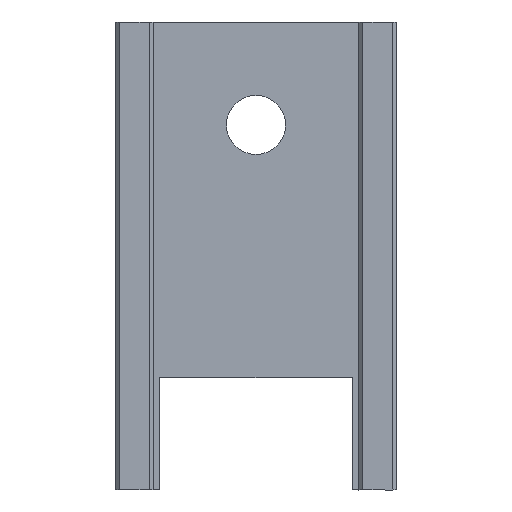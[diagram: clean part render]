
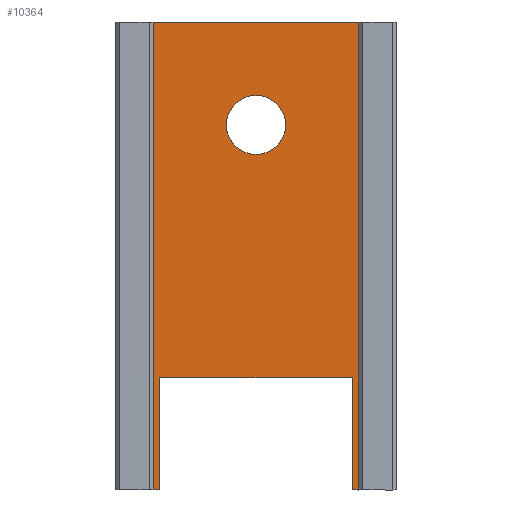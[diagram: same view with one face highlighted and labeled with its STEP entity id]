
A CAD part, front view. The second image highlights one B-rep face of the part: STEP entity #10364.
In plain terms, the highlighted planar face has unit normal (0, -1, 0).
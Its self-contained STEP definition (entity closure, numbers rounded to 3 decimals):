
#79 = CARTESIAN_POINT ( 'NONE',  ( 15., 17.85, 0. ) ) ;
#627 = CARTESIAN_POINT ( 'NONE',  ( 2., 17.85, 25. ) ) ;
#887 = VECTOR ( 'NONE', #10382, 1000. ) ;
#965 = CARTESIAN_POINT ( 'NONE',  ( 2., 17.85, -0.3 ) ) ;
#1031 = LINE ( 'NONE', #965, #3151 ) ;
#1712 = CARTESIAN_POINT ( 'NONE',  ( 12.65, 17.85, 0. ) ) ;
#1789 = VERTEX_POINT ( 'NONE', #627 ) ;
#1798 = VERTEX_POINT ( 'NONE', #10822 ) ;
#1818 = ORIENTED_EDGE ( 'NONE', *, *, #10819, .T. ) ;
#1979 = CARTESIAN_POINT ( 'NONE',  ( 7.5, 17.85, 21.075 ) ) ;
#2285 = CIRCLE ( 'NONE', #3654, 1.575 ) ;
#2679 = VERTEX_POINT ( 'NONE', #2866 ) ;
#2813 = VECTOR ( 'NONE', #9731, 1000. ) ;
#2866 = CARTESIAN_POINT ( 'NONE',  ( 2.35, 17.85, 6. ) ) ;
#2970 = LINE ( 'NONE', #10196, #887 ) ;
#3043 = EDGE_CURVE ( 'NONE', #10526, #1789, #1031, .T. ) ;
#3048 = LINE ( 'NONE', #9592, #8239 ) ;
#3151 = VECTOR ( 'NONE', #8284, 1000. ) ;
#3327 = CARTESIAN_POINT ( 'NONE',  ( 2., 17.85, -0.3 ) ) ;
#3375 = VECTOR ( 'NONE', #10570, 1000. ) ;
#3620 = DIRECTION ( 'NONE',  ( 1., 0., 0. ) ) ;
#3654 = AXIS2_PLACEMENT_3D ( 'NONE', #4406, #9908, #5447 ) ;
#3768 = ORIENTED_EDGE ( 'NONE', *, *, #3926, .F. ) ;
#3841 = EDGE_CURVE ( 'NONE', #1789, #7747, #4400, .T. ) ;
#3926 = EDGE_CURVE ( 'NONE', #6550, #10526, #10278, .T. ) ;
#4117 = EDGE_CURVE ( 'NONE', #2679, #9428, #2970, .T. ) ;
#4135 = EDGE_LOOP ( 'NONE', ( #9680, #9176, #5183, #5237, #4810, #3768, #10656, #8681 ) ) ;
#4400 = LINE ( 'NONE', #9218, #7878 ) ;
#4406 = CARTESIAN_POINT ( 'NONE',  ( 7.5, 17.85, 19.5 ) ) ;
#4479 = FACE_BOUND ( 'NONE', #10474, .T. ) ;
#4778 = DIRECTION ( 'NONE',  ( -1., 0., 0. ) ) ;
#4810 = ORIENTED_EDGE ( 'NONE', *, *, #3043, .F. ) ;
#4976 = LINE ( 'NONE', #10650, #2813 ) ;
#5165 = AXIS2_PLACEMENT_3D ( 'NONE', #8235, #8430, #7388 ) ;
#5183 = ORIENTED_EDGE ( 'NONE', *, *, #9958, .F. ) ;
#5237 = ORIENTED_EDGE ( 'NONE', *, *, #3841, .F. ) ;
#5287 = DIRECTION ( 'NONE',  ( 0., 1., 0. ) ) ;
#5413 = ORIENTED_EDGE ( 'NONE', *, *, #6456, .T. ) ;
#5447 = DIRECTION ( 'NONE',  ( 0., 0., 1. ) ) ;
#5523 = CARTESIAN_POINT ( 'NONE',  ( 2., 17.85, 0. ) ) ;
#5532 = VECTOR ( 'NONE', #4778, 1000. ) ;
#5546 = CARTESIAN_POINT ( 'NONE',  ( 13., 17.85, 25. ) ) ;
#5812 = DIRECTION ( 'NONE',  ( -1., 0., 0. ) ) ;
#6065 = FACE_OUTER_BOUND ( 'NONE', #4135, .T. ) ;
#6442 = VERTEX_POINT ( 'NONE', #1712 ) ;
#6456 = EDGE_CURVE ( 'NONE', #8804, #11538, #2285, .T. ) ;
#6550 = VERTEX_POINT ( 'NONE', #8302 ) ;
#6803 = CARTESIAN_POINT ( 'NONE',  ( 7.5, 17.85, 17.925 ) ) ;
#6817 = CARTESIAN_POINT ( 'NONE',  ( 13., 17.85, -0.3 ) ) ;
#7388 = DIRECTION ( 'NONE',  ( 0., 0., 1. ) ) ;
#7576 = CARTESIAN_POINT ( 'NONE',  ( 15., 17.85, 0. ) ) ;
#7747 = VERTEX_POINT ( 'NONE', #5546 ) ;
#7878 = VECTOR ( 'NONE', #3620, 1000. ) ;
#8025 = PLANE ( 'NONE',  #10809 ) ;
#8235 = CARTESIAN_POINT ( 'NONE',  ( 7.5, 17.85, 19.5 ) ) ;
#8239 = VECTOR ( 'NONE', #10465, 1000. ) ;
#8284 = DIRECTION ( 'NONE',  ( 0., 0., 1. ) ) ;
#8302 = CARTESIAN_POINT ( 'NONE',  ( 2.35, 17.85, 0. ) ) ;
#8319 = EDGE_CURVE ( 'NONE', #1798, #6442, #9407, .T. ) ;
#8430 = DIRECTION ( 'NONE',  ( 0., 1., 0. ) ) ;
#8681 = ORIENTED_EDGE ( 'NONE', *, *, #4117, .T. ) ;
#8804 = VERTEX_POINT ( 'NONE', #1979 ) ;
#9176 = ORIENTED_EDGE ( 'NONE', *, *, #8319, .F. ) ;
#9218 = CARTESIAN_POINT ( 'NONE',  ( 0., 17.85, 25. ) ) ;
#9407 = LINE ( 'NONE', #7576, #9744 ) ;
#9428 = VERTEX_POINT ( 'NONE', #11348 ) ;
#9592 = CARTESIAN_POINT ( 'NONE',  ( 12.65, 17.85, 6. ) ) ;
#9680 = ORIENTED_EDGE ( 'NONE', *, *, #11012, .T. ) ;
#9704 = LINE ( 'NONE', #6817, #3375 ) ;
#9731 = DIRECTION ( 'NONE',  ( 0., 0., 1. ) ) ;
#9744 = VECTOR ( 'NONE', #5812, 1000. ) ;
#9908 = DIRECTION ( 'NONE',  ( 0., 1., 0. ) ) ;
#9958 = EDGE_CURVE ( 'NONE', #7747, #1798, #9704, .T. ) ;
#9988 = DIRECTION ( 'NONE',  ( 0., 0., 1. ) ) ;
#10196 = CARTESIAN_POINT ( 'NONE',  ( 2.35, 17.85, 6. ) ) ;
#10278 = LINE ( 'NONE', #79, #5532 ) ;
#10364 = ADVANCED_FACE ( 'NONE', ( #6065, #4479 ), #8025, .F. ) ;
#10382 = DIRECTION ( 'NONE',  ( 1., 0., 0. ) ) ;
#10437 = CIRCLE ( 'NONE', #5165, 1.575 ) ;
#10465 = DIRECTION ( 'NONE',  ( 0., 0., -1. ) ) ;
#10474 = EDGE_LOOP ( 'NONE', ( #5413, #1818 ) ) ;
#10526 = VERTEX_POINT ( 'NONE', #5523 ) ;
#10570 = DIRECTION ( 'NONE',  ( 0., 0., -1. ) ) ;
#10650 = CARTESIAN_POINT ( 'NONE',  ( 2.35, 17.85, -0.2 ) ) ;
#10656 = ORIENTED_EDGE ( 'NONE', *, *, #10672, .T. ) ;
#10672 = EDGE_CURVE ( 'NONE', #6550, #2679, #4976, .T. ) ;
#10809 = AXIS2_PLACEMENT_3D ( 'NONE', #3327, #5287, #9988 ) ;
#10819 = EDGE_CURVE ( 'NONE', #11538, #8804, #10437, .T. ) ;
#10822 = CARTESIAN_POINT ( 'NONE',  ( 13., 17.85, 0. ) ) ;
#11012 = EDGE_CURVE ( 'NONE', #9428, #6442, #3048, .T. ) ;
#11348 = CARTESIAN_POINT ( 'NONE',  ( 12.65, 17.85, 6. ) ) ;
#11538 = VERTEX_POINT ( 'NONE', #6803 ) ;
